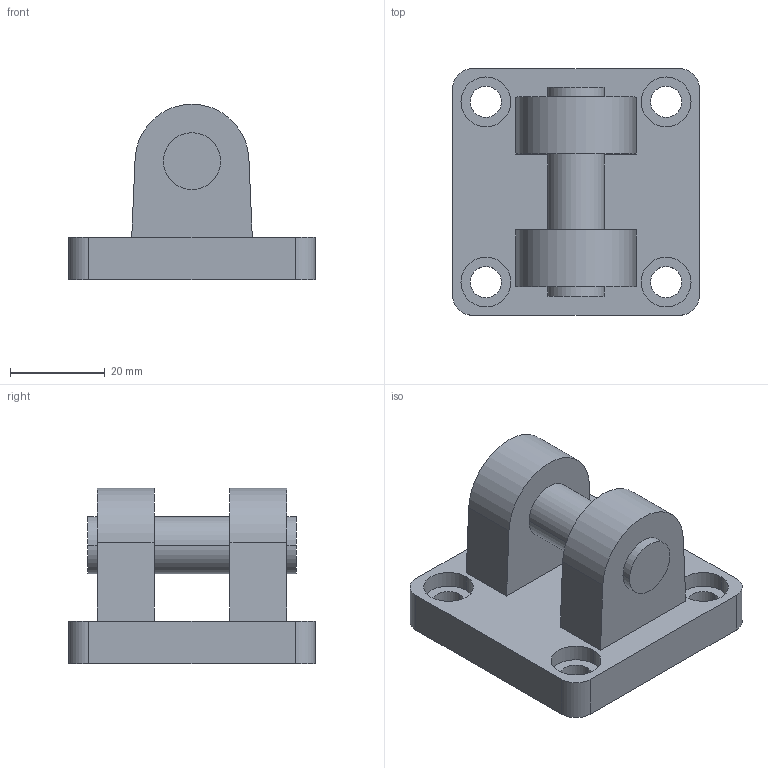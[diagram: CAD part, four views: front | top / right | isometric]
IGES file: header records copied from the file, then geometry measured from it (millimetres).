
Global section: file name: No Iges File Name specified; native system: AutoDesk Inventor R11.0; preprocessor: AutoDesk Inventor Iges Exporter R11.0; author: No Author specified; organization: No Organization specified; date: 20060711.153850; units: millimetre
Bounding box: 52 x 52 x 37 mm (x, y, z)
Volume: 34605.4 mm3; surface area: 12455.4 mm2
Topology: 1 solids, 1 shells, 51 faces, 120 edges, 80 vertices
Faces by surface type: bspline 23, plane 16, cylinder 12
